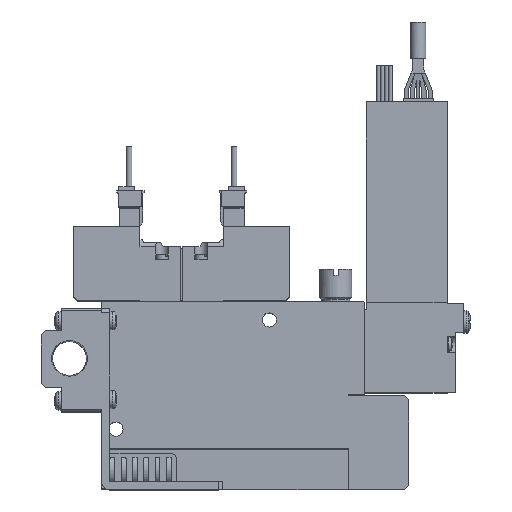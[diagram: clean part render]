
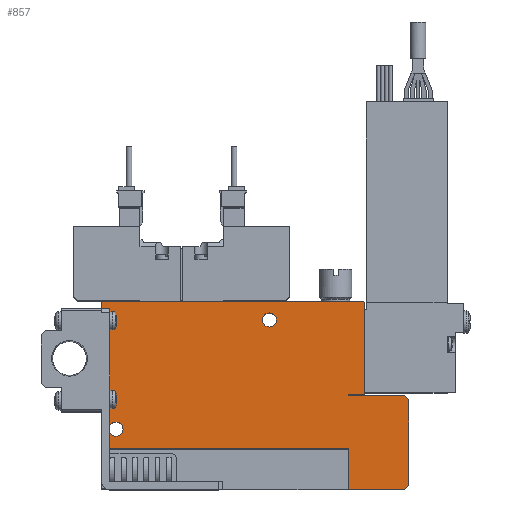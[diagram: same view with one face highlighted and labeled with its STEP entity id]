
A CAD part, top view. The second image highlights one B-rep face of the part: STEP entity #857.
In plain terms, the highlighted planar face has unit normal (0, 0, 1).
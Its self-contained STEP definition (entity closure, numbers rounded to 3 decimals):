
#857=ADVANCED_FACE('',(#2057,#2058,#2059),#2060,.F.);
#2057=FACE_OUTER_BOUND('',#3646,.T.);
#2058=FACE_BOUND('',#3647,.T.);
#2059=FACE_BOUND('',#3648,.T.);
#2060=PLANE('',#3649);
#3646=EDGE_LOOP('',(#7812,#7813,#7814,#7815,#7816,#7817,#7818,#7819,#7820,#7821,#7822,#7823,#7824,#7825));
#3647=EDGE_LOOP('',(#7826));
#3648=EDGE_LOOP('',(#7827));
#3649=AXIS2_PLACEMENT_3D('',#7828,#7829,#7830);
#7812=ORIENTED_EDGE('',*,*,#11171,.T.);
#7813=ORIENTED_EDGE('',*,*,#11172,.F.);
#7814=ORIENTED_EDGE('',*,*,#10932,.F.);
#7815=ORIENTED_EDGE('',*,*,#11173,.T.);
#7816=ORIENTED_EDGE('',*,*,#11174,.T.);
#7817=ORIENTED_EDGE('',*,*,#11131,.T.);
#7818=ORIENTED_EDGE('',*,*,#10971,.T.);
#7819=ORIENTED_EDGE('',*,*,#11175,.T.);
#7820=ORIENTED_EDGE('',*,*,#11176,.T.);
#7821=ORIENTED_EDGE('',*,*,#11177,.T.);
#7822=ORIENTED_EDGE('',*,*,#10999,.T.);
#7823=ORIENTED_EDGE('',*,*,#11178,.T.);
#7824=ORIENTED_EDGE('',*,*,#10910,.T.);
#7825=ORIENTED_EDGE('',*,*,#11179,.T.);
#7826=ORIENTED_EDGE('',*,*,#11170,.F.);
#7827=ORIENTED_EDGE('',*,*,#10878,.F.);
#7828=CARTESIAN_POINT('',(0.0,0.0,5.0));
#7829=DIRECTION('',(0.0,0.0,-1.0));
#7830=DIRECTION('',(0.0,-1.0,0.0));
#10878=EDGE_CURVE('',#13277,#13277,#13278,.T.);
#10910=EDGE_CURVE('',#13340,#13338,#13341,.T.);
#10932=EDGE_CURVE('',#13382,#13384,#13385,.T.);
#10971=EDGE_CURVE('',#13461,#13459,#13462,.T.);
#10999=EDGE_CURVE('',#13512,#13510,#13513,.T.);
#11131=EDGE_CURVE('',#13725,#13461,#13726,.T.);
#11170=EDGE_CURVE('',#13783,#13783,#13784,.T.);
#11171=EDGE_CURVE('',#13785,#13786,#13787,.T.);
#11172=EDGE_CURVE('',#13384,#13786,#13788,.T.);
#11173=EDGE_CURVE('',#13382,#13789,#13790,.T.);
#11174=EDGE_CURVE('',#13789,#13725,#13791,.T.);
#11175=EDGE_CURVE('',#13459,#13792,#13793,.T.);
#11176=EDGE_CURVE('',#13792,#13794,#13795,.T.);
#11177=EDGE_CURVE('',#13794,#13512,#13796,.T.);
#11178=EDGE_CURVE('',#13510,#13340,#13797,.T.);
#11179=EDGE_CURVE('',#13338,#13785,#13798,.T.);
#13277=VERTEX_POINT('',#17244);
#13278=CIRCLE('',#17245,1.75);
#13338=VERTEX_POINT('',#17332);
#13340=VERTEX_POINT('',#17335);
#13341=LINE('',#17336,#17337);
#13382=VERTEX_POINT('',#17404);
#13384=VERTEX_POINT('',#17407);
#13385=LINE('',#17408,#17409);
#13459=VERTEX_POINT('',#17514);
#13461=VERTEX_POINT('',#17517);
#13462=LINE('',#17518,#17519);
#13510=VERTEX_POINT('',#17583);
#13512=VERTEX_POINT('',#17586);
#13513=LINE('',#17587,#17588);
#13725=VERTEX_POINT('',#17980);
#13726=LINE('',#17981,#17982);
#13783=VERTEX_POINT('',#18119);
#13784=CIRCLE('',#18120,1.75);
#13785=VERTEX_POINT('',#18121);
#13786=VERTEX_POINT('',#18122);
#13787=LINE('',#18123,#18124);
#13788=LINE('',#18125,#18126);
#13789=VERTEX_POINT('',#18127);
#13790=LINE('',#18128,#18129);
#13791=LINE('',#18130,#18131);
#13792=VERTEX_POINT('',#18132);
#13793=LINE('',#18133,#18134);
#13794=VERTEX_POINT('',#18135);
#13795=LINE('',#18136,#18137);
#13796=LINE('',#18138,#18139);
#13797=LINE('',#18140,#18141);
#13798=LINE('',#18142,#18143);
#17244=CARTESIAN_POINT('',(43.25,42.0,5.0));
#17245=AXIS2_PLACEMENT_3D('',#21307,#21308,#21309);
#17332=CARTESIAN_POINT('',(0.2,46.6,5.0));
#17335=CARTESIAN_POINT('',(64.8,46.6,5.0));
#17336=CARTESIAN_POINT('',(64.8,46.6,5.0));
#17337=VECTOR('',#21347,1.0);
#17404=CARTESIAN_POINT('',(61.1,0.0,5.0));
#17407=CARTESIAN_POINT('',(61.1,10.1,5.0));
#17408=CARTESIAN_POINT('',(61.1,0.0,5.0));
#17409=VECTOR('',#21374,1.0);
#17514=CARTESIAN_POINT('',(75.0,23.25,5.0));
#17517=CARTESIAN_POINT('',(76.0,22.25,5.0));
#17518=CARTESIAN_POINT('',(76.0,22.25,5.0));
#17519=VECTOR('',#21425,1.0);
#17583=CARTESIAN_POINT('',(65.0,46.4,5.0));
#17586=CARTESIAN_POINT('',(65.0,23.5,5.0));
#17587=CARTESIAN_POINT('',(65.0,23.5,5.0));
#17588=VECTOR('',#21473,1.0);
#17980=CARTESIAN_POINT('',(76.0,1.0,5.0));
#17981=CARTESIAN_POINT('',(76.0,1.0,5.0));
#17982=VECTOR('',#21639,1.0);
#18119=CARTESIAN_POINT('',(5.25,15.0,5.0));
#18120=AXIS2_PLACEMENT_3D('',#21688,#21689,#21690);
#18121=CARTESIAN_POINT('',(0.0,46.4,5.0));
#18122=CARTESIAN_POINT('',(0.0,10.1,5.0));
#18123=CARTESIAN_POINT('',(0.0,46.4,5.0));
#18124=VECTOR('',#21691,1.0);
#18125=CARTESIAN_POINT('',(61.1,10.1,5.0));
#18126=VECTOR('',#21692,1.0);
#18127=CARTESIAN_POINT('',(75.0,0.0,5.0));
#18128=CARTESIAN_POINT('',(0.0,0.0,5.0));
#18129=VECTOR('',#21693,1.0);
#18130=CARTESIAN_POINT('',(75.0,0.0,5.0));
#18131=VECTOR('',#21694,1.0);
#18132=CARTESIAN_POINT('',(61.0,23.25,5.0));
#18133=CARTESIAN_POINT('',(75.0,23.25,5.0));
#18134=VECTOR('',#21695,1.0);
#18135=CARTESIAN_POINT('',(61.0,23.5,5.0));
#18136=CARTESIAN_POINT('',(61.0,23.25,5.0));
#18137=VECTOR('',#21696,1.0);
#18138=CARTESIAN_POINT('',(61.0,23.5,5.0));
#18139=VECTOR('',#21697,1.0);
#18140=CARTESIAN_POINT('',(65.0,46.4,5.0));
#18141=VECTOR('',#21698,1.0);
#18142=CARTESIAN_POINT('',(0.2,46.6,5.0));
#18143=VECTOR('',#21699,1.0);
#21307=CARTESIAN_POINT('',(41.5,42.0,5.0));
#21308=DIRECTION('',(0.0,0.0,1.0));
#21309=DIRECTION('',(1.0,0.0,0.0));
#21347=DIRECTION('',(-1.0,0.0,0.0));
#21374=DIRECTION('',(0.0,1.0,0.0));
#21425=DIRECTION('',(-0.707,0.707,0.0));
#21473=DIRECTION('',(0.0,1.0,0.0));
#21639=DIRECTION('',(0.0,1.0,0.0));
#21688=CARTESIAN_POINT('',(3.5,15.0,5.0));
#21689=DIRECTION('',(0.0,0.0,1.0));
#21690=DIRECTION('',(1.0,0.0,0.0));
#21691=DIRECTION('',(0.0,-1.0,0.0));
#21692=DIRECTION('',(-1.0,0.0,0.0));
#21693=DIRECTION('',(1.0,0.0,0.0));
#21694=DIRECTION('',(0.707,0.707,0.0));
#21695=DIRECTION('',(-1.0,0.0,0.0));
#21696=DIRECTION('',(0.0,1.0,0.0));
#21697=DIRECTION('',(1.0,0.,0.0));
#21698=DIRECTION('',(-0.707,0.707,0.0));
#21699=DIRECTION('',(-0.707,-0.707,0.0));
